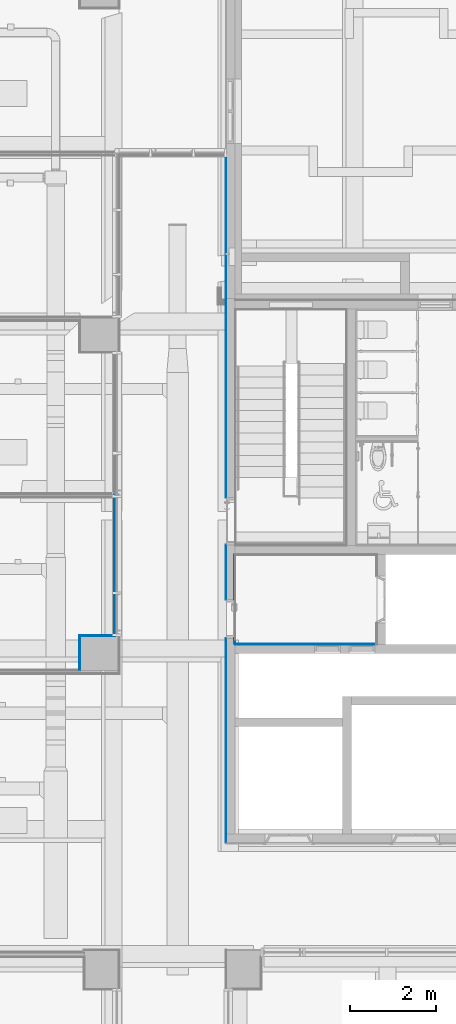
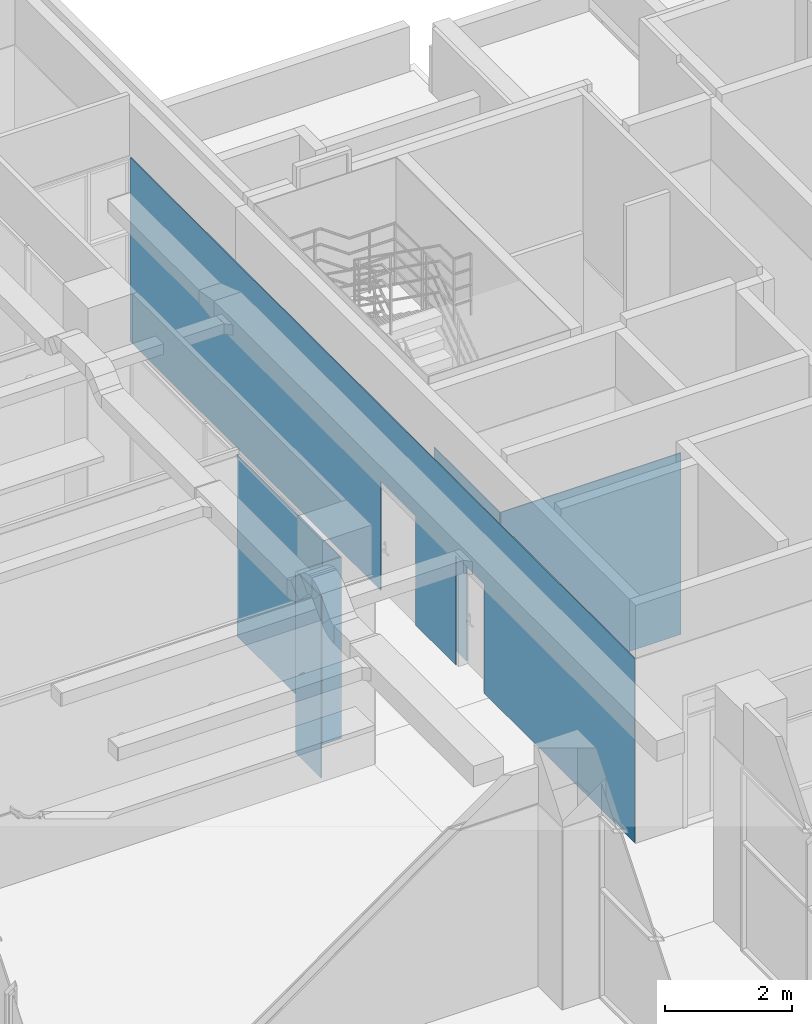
# One storey, part 40 of 100: 6 walls, 3 openings.
"""IFC2X3 building model written with IfcOpenShell, lengths in millimetres."""

from ifc_helpers import new_model, entity, si_unit, converted_unit, derived_unit, direction, frame, frame_2d, origin, origin_2d_with_axis, place, context, subcontext, project, spatial, rectangle, extrude, material, layer, layer_set, layer_usage, type_object, element, save


model = new_model("IFC2X3")

# Units and contexts
model_context = context("Model", 3, precision=0.01, world=origin(), true_north=direction((6.123031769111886e-17, 1.0)))
body_context = subcontext(model_context, "Body", "Model", "MODEL_VIEW")
ifc_project = project(units=[si_unit("LENGTHUNIT", "METRE", prefix="MILLI"), si_unit("AREAUNIT", "SQUARE_METRE"), si_unit("VOLUMEUNIT", "CUBIC_METRE"), converted_unit("PLANEANGLEUNIT", "DEGREE", entity("IfcRatioMeasure", 0.017453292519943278), si_unit("PLANEANGLEUNIT", "RADIAN"), dimensions=[0, 0, 0, 0, 0, 0, 0]), si_unit("MASSUNIT", "GRAM", prefix="KILO"), derived_unit("MASSDENSITYUNIT", [(si_unit("MASSUNIT", "GRAM", prefix="KILO"), 1), (si_unit("LENGTHUNIT", "METRE"), -3)]), derived_unit("MOMENTOFINERTIAUNIT", [(si_unit("LENGTHUNIT", "METRE"), 4)]), si_unit("TIMEUNIT", "SECOND"), si_unit("FREQUENCYUNIT", "HERTZ"), si_unit("THERMODYNAMICTEMPERATUREUNIT", "DEGREE_CELSIUS"), derived_unit("THERMALTRANSMITTANCEUNIT", [(si_unit("MASSUNIT", "GRAM", prefix="KILO"), 1), (si_unit("THERMODYNAMICTEMPERATUREUNIT", "KELVIN"), -1), (si_unit("TIMEUNIT", "SECOND"), -3)]), derived_unit("VOLUMETRICFLOWRATEUNIT", [(si_unit("LENGTHUNIT", "METRE"), 3), (si_unit("TIMEUNIT", "SECOND"), -1)]), derived_unit("MASSFLOWRATEUNIT", [(si_unit("MASSUNIT", "GRAM", prefix="KILO"), 1), (si_unit("TIMEUNIT", "SECOND"), -1)]), derived_unit("ROTATIONALFREQUENCYUNIT", [(si_unit("TIMEUNIT", "SECOND"), -1)]), si_unit("ELECTRICCURRENTUNIT", "AMPERE"), si_unit("ELECTRICVOLTAGEUNIT", "VOLT"), si_unit("POWERUNIT", "WATT"), si_unit("FORCEUNIT", "NEWTON", prefix="KILO"), si_unit("ILLUMINANCEUNIT", "LUX"), si_unit("LUMINOUSFLUXUNIT", "LUMEN"), si_unit("LUMINOUSINTENSITYUNIT", "CANDELA"), derived_unit("USERDEFINED", [(si_unit("MASSUNIT", "GRAM", prefix="KILO"), -1), (si_unit("LENGTHUNIT", "METRE"), -2), (si_unit("TIMEUNIT", "SECOND"), 3), (si_unit("LUMINOUSFLUXUNIT", "LUMEN"), 1)]), derived_unit("SOUNDPOWERUNIT", [(si_unit("MASSUNIT", "GRAM", prefix="KILO"), 1), (si_unit("LENGTHUNIT", "METRE"), 2), (si_unit("TIMEUNIT", "SECOND"), -3)]), derived_unit("SOUNDPRESSUREUNIT", [(si_unit("MASSUNIT", "GRAM", prefix="KILO"), 1), (si_unit("LENGTHUNIT", "METRE"), -1), (si_unit("TIMEUNIT", "SECOND"), -2)]), derived_unit("LINEARVELOCITYUNIT", [(si_unit("LENGTHUNIT", "METRE"), 1), (si_unit("TIMEUNIT", "SECOND"), -1)]), si_unit("PRESSUREUNIT", "PASCAL"), derived_unit("USERDEFINED", [(si_unit("LENGTHUNIT", "METRE"), -2), (si_unit("MASSUNIT", "GRAM", prefix="KILO"), 1), (si_unit("TIMEUNIT", "SECOND"), -2)]), derived_unit("LINEARFORCEUNIT", [(si_unit("MASSUNIT", "GRAM", prefix="KILO"), 1), (si_unit("LENGTHUNIT", "METRE"), 1), (si_unit("TIMEUNIT", "SECOND"), -2), (si_unit("LENGTHUNIT", "METRE"), -1)]), derived_unit("PLANARFORCEUNIT", [(si_unit("MASSUNIT", "GRAM", prefix="KILO"), 1), (si_unit("LENGTHUNIT", "METRE"), 1), (si_unit("TIMEUNIT", "SECOND"), -2), (si_unit("LENGTHUNIT", "METRE"), -2)])], contexts=[model_context])

# Site, building, storey
site_placement = place(None, frame((-14167.972527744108, -657.2125860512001, 0.0)))
site = spatial("IfcSite", under=ifc_project, at=site_placement, Name="Default", CompositionType="ELEMENT")
building_placement = place(site_placement, origin())
building = spatial("IfcBuilding", under=site, at=building_placement, Name="Sample Building", CompositionType="ELEMENT")
storey_placement = place(building_placement, origin())
storey = spatial("IfcBuildingStorey", under=building, at=storey_placement, Name="지상 1층", CompositionType="ELEMENT", Elevation=0.0)

# Wall, openings
ifc_material_1 = material(Name="WA611-수성페인트 (내부) 벽 (3회)")
ifc_layer_1 = layer(ifc_material_1, 1.0)
ifc_material_2 = material(Name="WA551-시멘트모르타르 (내부) 벽 18mm")
ifc_layer_2 = layer(ifc_material_2, 16.0)
ifc_material_3 = material(Name="WA555-콘크리트면정리 벽 (내부)")
ifc_layer_3 = layer(ifc_material_3, 1.0)
ifc_layer_set = layer_set([ifc_layer_1, ifc_layer_2, ifc_layer_3], Name="기본 벽:A1-32-06A-콘크리트면정리, 시멘트모르타르(미장용), 수성페인트(내부) (18mm)")
ifc_layer_usage_1 = layer_usage(ifc_layer_set, "AXIS2", "NEGATIVE", 9.000000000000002)
wall_type = type_object("IfcWallType", Name="기본 벽:A1-32-06A-콘크리트면정리, 시멘트모르타르(미장용), 수성페인트(내부) (18mm)", PredefinedType="STANDARD", material=ifc_layer_set)
wall_1_placement = place(storey_placement, frame((30057.12581445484, 15553.285530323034, 80.0), z_axis=(0.0, 0.0, 1.0), x_axis=(0.0, 1.0, 0.0)))
wall_1 = element("IfcWallStandardCase", 1, at=wall_1_placement, inside=storey, type_object=wall_type, material=ifc_layer_usage_1, Name="기본 벽:A1-32-06A-콘크리트면정리, 시멘트모르타르(미장용), 수성페인트(내부) (18mm)", ObjectType="기본 벽:A1-32-06A-콘크리트면정리, 시멘트모르타르(미장용), 수성페인트(내부) (18mm)", context=body_context, shape_type="SweptSolid", body=[
    extrude(rectangle(XDim=15933.89221778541, YDim=18.00000000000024, at=frame_2d((7966.946108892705, -2.1662671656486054e-12), x_axis=(1.0, 0.0))), origin(), (0.0, 0.0, 1.0), 3550.0000000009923),
])
opening_1_placement = place(wall_1_placement, origin())
element("IfcOpeningElement", 2, at=opening_1_placement, cuts=wall_1, Name="기본 벽:A1-32-06A-콘크리트면정리, 시멘트모르타르(미장용), 수성페인트(내부) (18mm)", ObjectType="Opening", context=body_context, shape_type="SweptSolid", body=[
    extrude(rectangle(XDim=2099.999999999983, YDim=1100.0000000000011, at=origin_2d_with_axis()), frame((7473.892097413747, -1733.0, 1050.0), z_axis=(0.0, 1.0, 0.0), x_axis=(0.0, 0.0, 1.0)), (0.0, 0.0, 1.0), 3048.0),
])
opening_2_placement = place(wall_1_placement, origin())
element("IfcOpeningElement", 3, at=opening_2_placement, cuts=wall_1, Name="기본 벽:A1-32-06A-콘크리트면정리, 시멘트모르타르(미장용), 수성페인트(내부) (18mm)", ObjectType="Opening", context=body_context, shape_type="SweptSolid", body=[
    extrude(rectangle(XDim=2099.999999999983, YDim=899.999999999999, at=frame_2d((0.0, 2.1600499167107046e-12), x_axis=(1.0, 0.0))), frame((5203.892095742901, -1533.0, 1050.0), z_axis=(0.0, 1.0, 0.0), x_axis=(0.0, 0.0, 1.0)), (0.0, 0.0, 1.0), 3048.0),
])

# Walls
ifc_layer_usage_2 = layer_usage(ifc_layer_set, "AXIS2", "NEGATIVE", 9.000000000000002)
wall_2_placement = place(storey_placement, frame((26658.97249113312, 19575.16020764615, 80.0), z_axis=(0.0, 0.0, 1.0), x_axis=(0.0, 1.0, 0.0)))
element("IfcWallStandardCase", 4, at=wall_2_placement, inside=storey, type_object=wall_type, material=ifc_layer_usage_2, Name="기본 벽:A1-32-06A-콘크리트면정리, 시멘트모르타르(미장용), 수성페인트(내부) (18mm)", ObjectType="기본 벽:A1-32-06A-콘크리트면정리, 시멘트모르타르(미장용), 수성페인트(내부) (18mm)", context=body_context, shape_type="SweptSolid", body=[
    extrude(rectangle(XDim=800.0346835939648, YDim=18.00000000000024, at=frame_2d((400.0173417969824, -2.1662671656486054e-12), x_axis=(-1.0, 0.0))), origin(), (0.0, 0.0, 1.0), 3500.0000000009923),
])
ifc_layer_usage_3 = layer_usage(ifc_layer_set, "AXIS2", "NEGATIVE", 9.000000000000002)
wall_3_placement = place(storey_placement, frame((26667.972491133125, 20366.194891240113, 80.0)))
element("IfcWallStandardCase", 5, at=wall_3_placement, inside=storey, type_object=wall_type, material=ifc_layer_usage_3, Name="기본 벽:A1-32-06A-콘크리트면정리, 시멘트모르타르(미장용), 수성페인트(내부) (18mm)", ObjectType="기본 벽:A1-32-06A-콘크리트면정리, 시멘트모르타르(미장용), 수성페인트(내부) (18mm)", context=body_context, shape_type="SweptSolid", body=[
    extrude(rectangle(XDim=809.9826506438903, YDim=18.00000000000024, at=frame_2d((404.99132532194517, -2.1529444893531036e-12), x_axis=(-1.0, 0.0))), origin(), (0.0, 0.0, 1.0), 3500.0000000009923),
])
ifc_layer_usage_4 = layer_usage(ifc_layer_set, "AXIS2", "NEGATIVE", 9.000000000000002)
wall_4_placement = place(storey_placement, frame((27463.972491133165, 20366.19489124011, 80.0), z_axis=(0.0, 0.0, 1.0), x_axis=(0.0, 1.0, 0.0)))
element("IfcWallStandardCase", 6, at=wall_4_placement, inside=storey, type_object=wall_type, material=ifc_layer_usage_4, Name="기본 벽:A1-32-06A-콘크리트면정리, 시멘트모르타르(미장용), 수성페인트(내부) (18mm)", ObjectType="기본 벽:A1-32-06A-콘크리트면정리, 시멘트모르타르(미장용), 수성페인트(내부) (18mm)", context=body_context, shape_type="SweptSolid", body=[
    extrude(rectangle(XDim=3259.7327331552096, YDim=18.00000000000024, at=frame_2d((1629.8663665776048, -2.112976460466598e-12), x_axis=(-1.0, 0.0))), origin(), (0.0, 0.0, 1.0), 3500.0000000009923),
])
ifc_layer_usage_5 = layer_usage(ifc_layer_set, "AXIS2", "POSITIVE", -9.000000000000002)
wall_5_placement = place(storey_placement, frame((33549.97249113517, 20166.194891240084, 80.0), z_axis=(0.0, 0.0, 1.0), x_axis=(-1.0, 0.0, 0.0)))
element("IfcWallStandardCase", 7, at=wall_5_placement, inside=storey, type_object=wall_type, material=ifc_layer_usage_5, Name="기본 벽:A1-32-06A-콘크리트면정리, 시멘트모르타르(미장용), 수성페인트(내부) (18mm)", ObjectType="기본 벽:A1-32-06A-콘크리트면정리, 시멘트모르타르(미장용), 수성페인트(내부) (18mm)", context=body_context, shape_type="SweptSolid", body=[
    extrude(rectangle(XDim=3283.8466766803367, YDim=18.00000000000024, at=frame_2d((1641.9233383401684, -2.163602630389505e-12), x_axis=(-1.0, 0.0))), origin(), (0.0, 0.0, 1.0), 3500.0000000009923),
])

# Wall, opening
ifc_layer_usage_6 = layer_usage(ifc_layer_set, "AXIS2", "POSITIVE", -9.000000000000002)
wall_6_placement = place(storey_placement, frame((30257.125814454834, 20175.194891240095, 80.0), z_axis=(0.0, 0.0, 1.0), x_axis=(0.0, 1.0, 0.0)))
wall_6 = element("IfcWallStandardCase", 8, at=wall_6_placement, inside=storey, type_object=wall_type, material=ifc_layer_usage_6, Name="기본 벽:A1-32-06A-콘크리트면정리, 시멘트모르타르(미장용), 수성페인트(내부) (18mm)", ObjectType="기본 벽:A1-32-06A-콘크리트면정리, 시멘트모르타르(미장용), 수성페인트(내부) (18mm)", context=body_context, shape_type="SweptSolid", body=[
    extrude(rectangle(XDim=2064.0000033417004, YDim=18.00000000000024, at=frame_2d((1032.0000016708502, -2.185807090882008e-12), x_axis=(1.0, 0.0))), origin(), (0.0, 0.0, 1.0), 3500.0000000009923),
])
opening_3_placement = place(wall_6_placement, origin())
element("IfcOpeningElement", 9, at=opening_3_placement, cuts=wall_6, Name="기본 벽:A1-32-06A-콘크리트면정리, 시멘트모르타르(미장용), 수성페인트(내부) (18mm)", ObjectType="Opening", context=body_context, shape_type="SweptSolid", body=[
    extrude(rectangle(XDim=2099.999999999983, YDim=899.999999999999, at=frame_2d((0.0, 2.1600499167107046e-12), x_axis=(1.0, 0.0))), frame((581.9827348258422, -1333.0, 1050.0), z_axis=(0.0, 1.0, 0.0), x_axis=(0.0, 0.0, 1.0)), (0.0, 0.0, 1.0), 3048.0),
])

save(model, "model.ifc")
